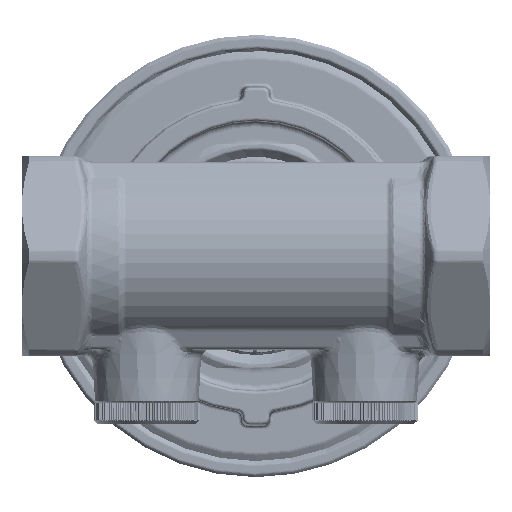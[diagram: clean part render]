
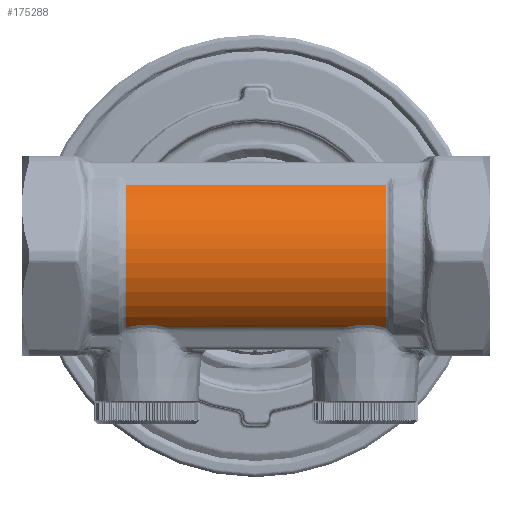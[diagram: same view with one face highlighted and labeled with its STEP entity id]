
A CAD part, front view. The second image highlights one B-rep face of the part: STEP entity #175288.
In plain terms, the highlighted cylindrical face has radius 14.5 mm (diameter 29 mm), a partial arc.
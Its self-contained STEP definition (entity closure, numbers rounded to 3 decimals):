
#12366=B_SPLINE_CURVE_WITH_KNOTS('',3,(#404537,#404538,#404539,#404540,
#404541),.UNSPECIFIED.,.F.,.F.,(4,1,4),(-0.691,-0.296,
0.),.UNSPECIFIED.);
#12367=B_SPLINE_CURVE_WITH_KNOTS('',3,(#404544,#404545,#404546,#404547,
#404548),.UNSPECIFIED.,.F.,.F.,(4,1,4),(-0.691,-0.296,
0.),.UNSPECIFIED.);
#28458=LINE('',#403814,#36467);
#28465=LINE('',#404534,#36474);
#28466=LINE('',#404543,#36475);
#28467=LINE('',#404549,#36476);
#36467=VECTOR('',#229392,10.);
#36474=VECTOR('',#229511,10.);
#36475=VECTOR('',#229514,10.);
#36476=VECTOR('',#229515,10.);
#39399=CYLINDRICAL_SURFACE('',#190961,14.5);
#50637=FACE_OUTER_BOUND('',#60955,.T.);
#60955=EDGE_LOOP('',(#157330,#157331,#157332,#157333,#157334,#157335,#157336,
#157337));
#69657=CIRCLE('',#190877,14.5);
#69700=CIRCLE('',#190938,14.5);
#85676=VERTEX_POINT('',#403472);
#85678=VERTEX_POINT('',#403478);
#85704=VERTEX_POINT('',#403812);
#85734=VERTEX_POINT('',#404199);
#85738=VERTEX_POINT('',#404214);
#85756=VERTEX_POINT('',#404524);
#85758=VERTEX_POINT('',#404536);
#85759=VERTEX_POINT('',#404542);
#109887=EDGE_CURVE('',#85676,#85678,#69657,.T.);
#109927=EDGE_CURVE('',#85704,#85676,#28458,.T.);
#109975=EDGE_CURVE('',#85734,#85738,#69700,.T.);
#110007=EDGE_CURVE('',#85738,#85756,#28465,.T.);
#110008=EDGE_CURVE('',#85758,#85704,#12366,.T.);
#110009=EDGE_CURVE('',#85759,#85758,#28466,.T.);
#110010=EDGE_CURVE('',#85756,#85759,#12367,.T.);
#110011=EDGE_CURVE('',#85678,#85734,#28467,.T.);
#157330=ORIENTED_EDGE('',*,*,#109887,.F.);
#157331=ORIENTED_EDGE('',*,*,#109927,.F.);
#157332=ORIENTED_EDGE('',*,*,#110008,.F.);
#157333=ORIENTED_EDGE('',*,*,#110009,.F.);
#157334=ORIENTED_EDGE('',*,*,#110010,.F.);
#157335=ORIENTED_EDGE('',*,*,#110007,.F.);
#157336=ORIENTED_EDGE('',*,*,#109975,.F.);
#157337=ORIENTED_EDGE('',*,*,#110011,.F.);
#175288=ADVANCED_FACE('',(#50637),#39399,.T.);
#190877=AXIS2_PLACEMENT_3D('',#403482,#229332,#229333);
#190938=AXIS2_PLACEMENT_3D('',#404218,#229464,#229465);
#190961=AXIS2_PLACEMENT_3D('',#404535,#229512,#229513);
#229332=DIRECTION('center_axis',(-1.,0.,0.));
#229333=DIRECTION('ref_axis',(0.,-1.,0.));
#229392=DIRECTION('',(-1.,0.,0.));
#229464=DIRECTION('center_axis',(1.,0.,0.));
#229465=DIRECTION('ref_axis',(0.,-1.,0.));
#229511=DIRECTION('',(-1.,0.,0.));
#229512=DIRECTION('center_axis',(1.,0.,0.));
#229513=DIRECTION('ref_axis',(0.,-1.,0.));
#229514=DIRECTION('',(-1.,0.,0.));
#229515=DIRECTION('',(1.,0.,0.));
#403472=CARTESIAN_POINT('',(-20.866,-8.899,-11.448));
#403478=CARTESIAN_POINT('',(-20.866,-8.899,11.448));
#403482=CARTESIAN_POINT('Origin',(-20.866,0.,
0.));
#403812=CARTESIAN_POINT('',(-20.845,-8.899,-11.448));
#403814=CARTESIAN_POINT('',(0.,-8.899,-11.448));
#404199=CARTESIAN_POINT('',(20.866,-8.899,11.448));
#404214=CARTESIAN_POINT('',(20.866,-8.899,-11.448));
#404218=CARTESIAN_POINT('Origin',(20.866,0.,
0.));
#404524=CARTESIAN_POINT('',(20.845,-8.899,-11.448));
#404534=CARTESIAN_POINT('',(0.,-8.899,-11.448));
#404535=CARTESIAN_POINT('Origin',(0.,0.,0.));
#404536=CARTESIAN_POINT('',(-14.155,-8.899,-11.448));
#404537=CARTESIAN_POINT('Ctrl Pts',(-14.155,-8.899,
-11.448));
#404538=CARTESIAN_POINT('Ctrl Pts',(-15.354,-9.286,
-11.147));
#404539=CARTESIAN_POINT('Ctrl Pts',(-17.679,-9.61,
-10.856));
#404540=CARTESIAN_POINT('Ctrl Pts',(-19.945,-9.19,
-11.222));
#404541=CARTESIAN_POINT('Ctrl Pts',(-20.845,-8.899,
-11.448));
#404542=CARTESIAN_POINT('',(14.155,-8.899,-11.448));
#404543=CARTESIAN_POINT('',(0.,-8.899,-11.448));
#404544=CARTESIAN_POINT('Ctrl Pts',(20.845,-8.899,
-11.448));
#404545=CARTESIAN_POINT('Ctrl Pts',(19.646,-9.286,
-11.147));
#404546=CARTESIAN_POINT('Ctrl Pts',(17.321,-9.61,
-10.856));
#404547=CARTESIAN_POINT('Ctrl Pts',(15.055,-9.19,
-11.222));
#404548=CARTESIAN_POINT('Ctrl Pts',(14.155,-8.899,
-11.448));
#404549=CARTESIAN_POINT('',(0.,-8.899,11.448));
